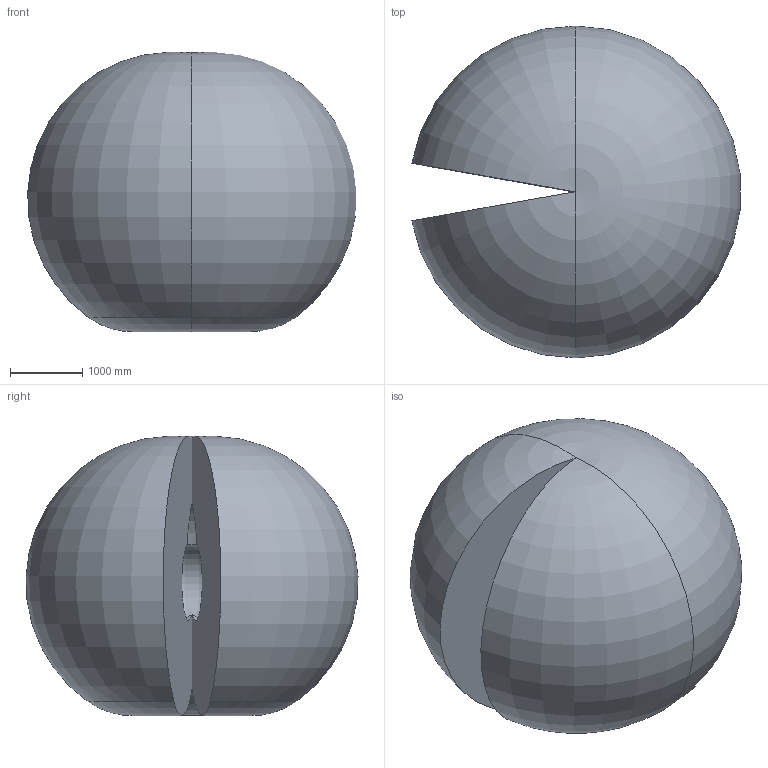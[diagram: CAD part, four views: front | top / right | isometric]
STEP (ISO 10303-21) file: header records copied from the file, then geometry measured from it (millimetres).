
FILE_DESCRIPTION (( 'STEP AP214' ), '1' );
FILE_NAME ('IRB5710-MH3_110kg-230_OmniCore_rev00_Working-space.STEP', '2021-04-20T11:56:24', ( '' ), ( '' ), 'SwSTEP 2.0', 'SolidWorks 2018', '' );
FILE_SCHEMA (( 'AUTOMOTIVE_DESIGN' ));
Length unit declared in the file: millimetre
Products named in the file (1): IRB5710-MH3_110kg-230_OmniCore_rev00_Working-space
Bounding box: 4548.84 x 4596.35 x 3866.47 mm (x, y, z)
Volume: 41972835871.4 mm3; surface area: 79283770 mm2
Topology: 1 solids, 1 shells, 14 faces, 36 edges, 12 vertices
Faces by surface type: torus 12, plane 2
Entity records: 522 total; most frequent: DIRECTION 76, CARTESIAN_POINT 51, ORIENTED_EDGE 48, AXIS2_PLACEMENT_3D 37, EDGE_CURVE 24, CIRCLE 22, UNCERTAINTY_MEASURE_WITH_UNIT 17, SURFACE_STYLE_USAGE 16
